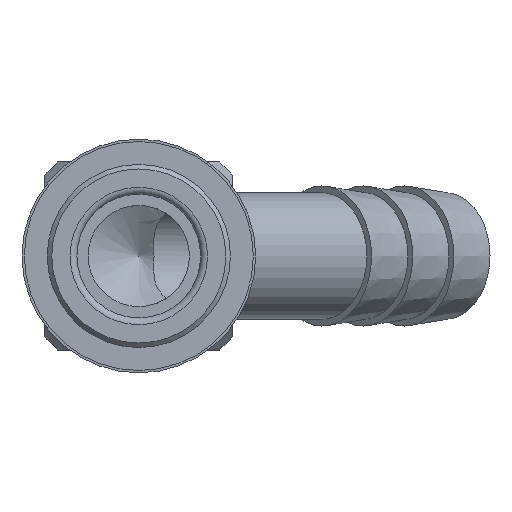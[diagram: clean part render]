
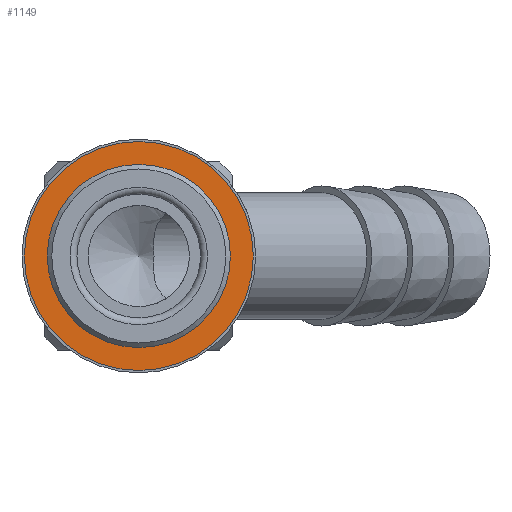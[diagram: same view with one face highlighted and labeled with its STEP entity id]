
A CAD part, left-side view. The second image highlights one B-rep face of the part: STEP entity #1149.
In plain terms, the highlighted planar face has unit normal (-1, 0, 0).
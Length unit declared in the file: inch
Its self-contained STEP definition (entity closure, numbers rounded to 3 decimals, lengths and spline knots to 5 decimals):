
#153=PLANE('',#1279);
#260=CIRCLE('',#1278,0.268);
#261=CIRCLE('',#1280,0.335);
#380=ORIENTED_EDGE('',*,*,#670,.F.);
#381=ORIENTED_EDGE('',*,*,#669,.T.);
#669=EDGE_CURVE('',#810,#810,#260,.T.);
#670=EDGE_CURVE('',#811,#811,#261,.T.);
#810=VERTEX_POINT('',#1896);
#811=VERTEX_POINT('',#1899);
#905=EDGE_LOOP('',(#380));
#906=EDGE_LOOP('',(#381));
#1025=FACE_BOUND('',#905,.T.);
#1026=FACE_BOUND('',#906,.T.);
#1149=ADVANCED_FACE('',(#1025,#1026),#153,.F.);
#1278=AXIS2_PLACEMENT_3D('',#1895,#1508,#1509);
#1279=AXIS2_PLACEMENT_3D('',#1897,#1510,#1511);
#1280=AXIS2_PLACEMENT_3D('',#1898,#1512,#1513);
#1508=DIRECTION('',(1.,0.,0.));
#1509=DIRECTION('',(0.,0.,-1.));
#1510=DIRECTION('',(1.,0.,0.));
#1511=DIRECTION('',(0.,0.,-1.));
#1512=DIRECTION('',(1.,0.,0.));
#1513=DIRECTION('',(0.,0.,-1.));
#1895=CARTESIAN_POINT('',(0.,0.,0.));
#1896=CARTESIAN_POINT('',(0.,0.,-0.268));
#1897=CARTESIAN_POINT('',(0.,0.268,0.));
#1898=CARTESIAN_POINT('',(0.,0.,0.));
#1899=CARTESIAN_POINT('',(0.,0.,-0.335));
